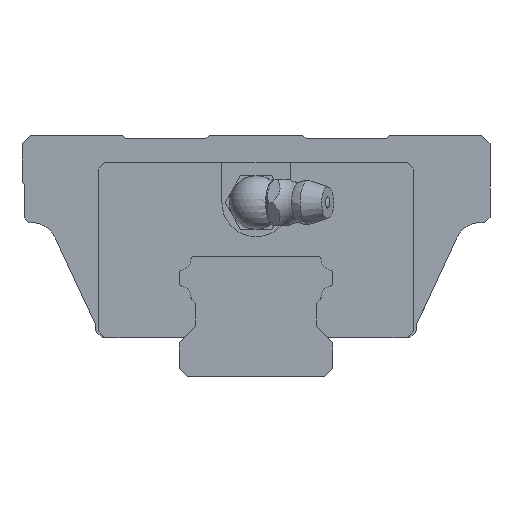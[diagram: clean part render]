
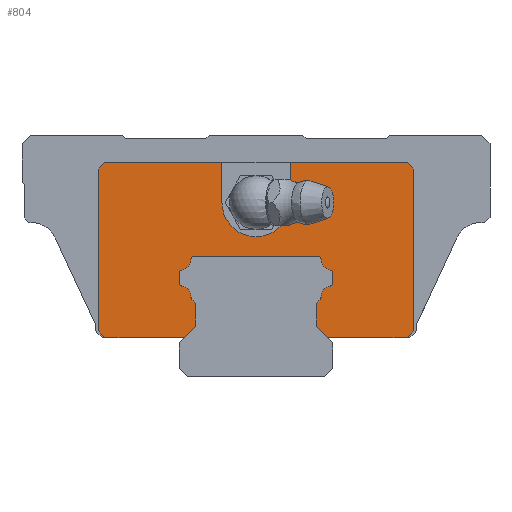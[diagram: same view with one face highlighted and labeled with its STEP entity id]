
A CAD part, front view. The second image highlights one B-rep face of the part: STEP entity #804.
In plain terms, the highlighted planar face has unit normal (0, -1, 0).
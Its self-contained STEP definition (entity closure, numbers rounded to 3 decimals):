
#589=CIRCLE('',#4147,0.5);
#591=CIRCLE('',#4150,1.7);
#593=CIRCLE('',#4153,0.5);
#595=CIRCLE('',#4162,0.5);
#597=CIRCLE('',#4165,1.7);
#599=CIRCLE('',#4168,0.5);
#601=CIRCLE('',#4172,0.5);
#603=CIRCLE('',#4175,1.7);
#605=CIRCLE('',#4178,0.5);
#607=CIRCLE('',#4182,0.5);
#609=CIRCLE('',#4185,1.7);
#611=CIRCLE('',#4188,0.5);
#623=CIRCLE('',#4218,5.1);
#804=ADVANCED_FACE('',(#1108),#957,.T.);
#957=PLANE('',#4219);
#1108=FACE_OUTER_BOUND('',#1343,.T.);
#1343=EDGE_LOOP('',(#2131,#2132,#2133,#2134,#2135,#2136,#2137,#2138,#2139,
#2140,#2141,#2142,#2143,#2144,#2145,#2146,#2147,#2148,#2149,#2150,#2151,
#2152,#2153,#2154,#2155,#2156,#2157,#2158,#2159,#2160,#2161,#2162,#2163,
#2164));
#2131=ORIENTED_EDGE('',*,*,#3104,.F.);
#2132=ORIENTED_EDGE('',*,*,#3101,.F.);
#2133=ORIENTED_EDGE('',*,*,#3098,.F.);
#2134=ORIENTED_EDGE('',*,*,#3095,.F.);
#2135=ORIENTED_EDGE('',*,*,#3092,.F.);
#2136=ORIENTED_EDGE('',*,*,#3089,.F.);
#2137=ORIENTED_EDGE('',*,*,#3086,.F.);
#2138=ORIENTED_EDGE('',*,*,#3145,.F.);
#2139=ORIENTED_EDGE('',*,*,#3142,.F.);
#2140=ORIENTED_EDGE('',*,*,#3139,.F.);
#2141=ORIENTED_EDGE('',*,*,#3136,.F.);
#2142=ORIENTED_EDGE('',*,*,#3133,.F.);
#2143=ORIENTED_EDGE('',*,*,#3130,.F.);
#2144=ORIENTED_EDGE('',*,*,#3127,.F.);
#2145=ORIENTED_EDGE('',*,*,#3124,.F.);
#2146=ORIENTED_EDGE('',*,*,#3121,.F.);
#2147=ORIENTED_EDGE('',*,*,#3118,.F.);
#2148=ORIENTED_EDGE('',*,*,#3115,.F.);
#2149=ORIENTED_EDGE('',*,*,#3112,.F.);
#2150=ORIENTED_EDGE('',*,*,#3109,.F.);
#2151=ORIENTED_EDGE('',*,*,#3106,.F.);
#2152=ORIENTED_EDGE('',*,*,#2965,.T.);
#2153=ORIENTED_EDGE('',*,*,#3156,.T.);
#2154=ORIENTED_EDGE('',*,*,#3153,.T.);
#2155=ORIENTED_EDGE('',*,*,#3158,.T.);
#2156=ORIENTED_EDGE('',*,*,#3164,.T.);
#2157=ORIENTED_EDGE('',*,*,#3174,.F.);
#2158=ORIENTED_EDGE('',*,*,#3175,.F.);
#2159=ORIENTED_EDGE('',*,*,#3176,.F.);
#2160=ORIENTED_EDGE('',*,*,#3160,.T.);
#2161=ORIENTED_EDGE('',*,*,#3165,.T.);
#2162=ORIENTED_EDGE('',*,*,#3149,.T.);
#2163=ORIENTED_EDGE('',*,*,#3155,.T.);
#2164=ORIENTED_EDGE('',*,*,#2887,.T.);
#2509=VERTEX_POINT('',#5593);
#2510=VERTEX_POINT('',#5595);
#2569=VERTEX_POINT('',#5752);
#2570=VERTEX_POINT('',#5754);
#2650=VERTEX_POINT('',#6000);
#2651=VERTEX_POINT('',#6002);
#2653=VERTEX_POINT('',#6008);
#2655=VERTEX_POINT('',#6014);
#2657=VERTEX_POINT('',#6020);
#2659=VERTEX_POINT('',#6026);
#2661=VERTEX_POINT('',#6032);
#2663=VERTEX_POINT('',#6041);
#2665=VERTEX_POINT('',#6047);
#2667=VERTEX_POINT('',#6053);
#2669=VERTEX_POINT('',#6059);
#2671=VERTEX_POINT('',#6065);
#2673=VERTEX_POINT('',#6071);
#2675=VERTEX_POINT('',#6077);
#2677=VERTEX_POINT('',#6083);
#2679=VERTEX_POINT('',#6089);
#2681=VERTEX_POINT('',#6095);
#2683=VERTEX_POINT('',#6101);
#2685=VERTEX_POINT('',#6107);
#2687=VERTEX_POINT('',#6113);
#2690=VERTEX_POINT('',#6124);
#2691=VERTEX_POINT('',#6126);
#2693=VERTEX_POINT('',#6132);
#2694=VERTEX_POINT('',#6134);
#2695=VERTEX_POINT('',#6142);
#2696=VERTEX_POINT('',#6146);
#2697=VERTEX_POINT('',#6148);
#2700=VERTEX_POINT('',#6154);
#2709=VERTEX_POINT('',#6186);
#2710=VERTEX_POINT('',#6188);
#2887=EDGE_CURVE('',#2510,#2509,#3350,.T.);
#2965=EDGE_CURVE('',#2570,#2569,#3404,.T.);
#3086=EDGE_CURVE('',#2650,#2651,#3505,.T.);
#3089=EDGE_CURVE('',#2651,#2653,#589,.T.);
#3092=EDGE_CURVE('',#2653,#2655,#591,.T.);
#3095=EDGE_CURVE('',#2655,#2657,#593,.T.);
#3098=EDGE_CURVE('',#2657,#2659,#3511,.T.);
#3101=EDGE_CURVE('',#2659,#2661,#3514,.T.);
#3104=EDGE_CURVE('',#2661,#2509,#3517,.T.);
#3106=EDGE_CURVE('',#2570,#2663,#3519,.T.);
#3109=EDGE_CURVE('',#2663,#2665,#3522,.T.);
#3112=EDGE_CURVE('',#2665,#2667,#3525,.T.);
#3115=EDGE_CURVE('',#2667,#2669,#595,.T.);
#3118=EDGE_CURVE('',#2669,#2671,#597,.T.);
#3121=EDGE_CURVE('',#2671,#2673,#599,.T.);
#3124=EDGE_CURVE('',#2673,#2675,#3531,.T.);
#3127=EDGE_CURVE('',#2675,#2677,#601,.T.);
#3130=EDGE_CURVE('',#2677,#2679,#603,.T.);
#3133=EDGE_CURVE('',#2679,#2681,#605,.T.);
#3136=EDGE_CURVE('',#2681,#2683,#3537,.T.);
#3139=EDGE_CURVE('',#2683,#2685,#607,.T.);
#3142=EDGE_CURVE('',#2685,#2687,#609,.T.);
#3145=EDGE_CURVE('',#2687,#2650,#611,.T.);
#3149=EDGE_CURVE('',#2691,#2690,#3543,.T.);
#3153=EDGE_CURVE('',#2694,#2693,#3546,.T.);
#3155=EDGE_CURVE('',#2690,#2510,#3548,.T.);
#3156=EDGE_CURVE('',#2569,#2694,#3549,.T.);
#3158=EDGE_CURVE('',#2693,#2695,#3551,.T.);
#3160=EDGE_CURVE('',#2697,#2696,#3553,.T.);
#3164=EDGE_CURVE('',#2695,#2700,#3557,.T.);
#3165=EDGE_CURVE('',#2696,#2691,#3558,.T.);
#3174=EDGE_CURVE('',#2709,#2700,#3559,.T.);
#3175=EDGE_CURVE('',#2710,#2709,#623,.T.);
#3176=EDGE_CURVE('',#2697,#2710,#3560,.T.);
#3350=LINE('',#5594,#3680);
#3404=LINE('',#5753,#3734);
#3505=LINE('',#6001,#3835);
#3511=LINE('',#6025,#3841);
#3514=LINE('',#6031,#3844);
#3517=LINE('',#6037,#3847);
#3519=LINE('',#6040,#3849);
#3522=LINE('',#6046,#3852);
#3525=LINE('',#6052,#3855);
#3531=LINE('',#6076,#3861);
#3537=LINE('',#6100,#3867);
#3543=LINE('',#6125,#3873);
#3546=LINE('',#6133,#3876);
#3548=LINE('',#6137,#3878);
#3549=LINE('',#6139,#3879);
#3551=LINE('',#6143,#3881);
#3553=LINE('',#6147,#3883);
#3557=LINE('',#6155,#3887);
#3558=LINE('',#6157,#3888);
#3559=LINE('',#6185,#3889);
#3560=LINE('',#6189,#3890);
#3680=VECTOR('',#4536,1.);
#3734=VECTOR('',#4680,1.);
#3835=VECTOR('',#4913,1.);
#3841=VECTOR('',#4939,1.);
#3844=VECTOR('',#4944,1.);
#3847=VECTOR('',#4949,1.);
#3849=VECTOR('',#4953,1.);
#3852=VECTOR('',#4958,1.);
#3855=VECTOR('',#4963,1.);
#3861=VECTOR('',#4989,1.);
#3867=VECTOR('',#5015,1.);
#3873=VECTOR('',#5043,1.);
#3876=VECTOR('',#5050,1.);
#3878=VECTOR('',#5054,1.);
#3879=VECTOR('',#5057,1.);
#3881=VECTOR('',#5061,1.);
#3883=VECTOR('',#5065,1.);
#3887=VECTOR('',#5069,1.);
#3888=VECTOR('',#5072,1.);
#3889=VECTOR('',#5111,1.);
#3890=VECTOR('',#5114,1.);
#4147=AXIS2_PLACEMENT_3D('',#6007,#4918,#4919);
#4150=AXIS2_PLACEMENT_3D('',#6013,#4925,#4926);
#4153=AXIS2_PLACEMENT_3D('',#6019,#4932,#4933);
#4162=AXIS2_PLACEMENT_3D('',#6058,#4968,#4969);
#4165=AXIS2_PLACEMENT_3D('',#6064,#4975,#4976);
#4168=AXIS2_PLACEMENT_3D('',#6070,#4982,#4983);
#4172=AXIS2_PLACEMENT_3D('',#6082,#4994,#4995);
#4175=AXIS2_PLACEMENT_3D('',#6088,#5001,#5002);
#4178=AXIS2_PLACEMENT_3D('',#6094,#5008,#5009);
#4182=AXIS2_PLACEMENT_3D('',#6106,#5020,#5021);
#4185=AXIS2_PLACEMENT_3D('',#6112,#5027,#5028);
#4188=AXIS2_PLACEMENT_3D('',#6118,#5034,#5035);
#4218=AXIS2_PLACEMENT_3D('',#6187,#5112,#5113);
#4219=AXIS2_PLACEMENT_3D('',#6190,#5115,#5116);
#4536=DIRECTION('',(1.,0.,0.));
#4680=DIRECTION('',(1.,0.,0.));
#4913=DIRECTION('',(0.,0.,-1.));
#4918=DIRECTION('',(0.,-1.,0.));
#4919=DIRECTION('',(0.,0.,-1.));
#4925=DIRECTION('',(0.,1.,0.));
#4926=DIRECTION('',(0.,0.,-1.));
#4932=DIRECTION('',(0.,-1.,0.));
#4933=DIRECTION('',(0.,0.,-1.));
#4939=DIRECTION('',(0.707,0.,-0.707));
#4944=DIRECTION('',(0.,0.,-1.));
#4949=DIRECTION('',(-0.707,0.,-0.707));
#4953=DIRECTION('',(-0.707,0.,0.707));
#4958=DIRECTION('',(0.,0.,1.));
#4963=DIRECTION('',(0.707,0.,0.707));
#4968=DIRECTION('',(0.,-1.,0.));
#4969=DIRECTION('',(0.,0.,-1.));
#4975=DIRECTION('',(0.,1.,0.));
#4976=DIRECTION('',(0.,0.,-1.));
#4982=DIRECTION('',(0.,-1.,0.));
#4983=DIRECTION('',(0.,0.,-1.));
#4989=DIRECTION('',(0.,0.,1.));
#4994=DIRECTION('',(0.,-1.,0.));
#4995=DIRECTION('',(0.,0.,-1.));
#5001=DIRECTION('',(0.,1.,0.));
#5002=DIRECTION('',(0.,0.,-1.));
#5008=DIRECTION('',(0.,-1.,0.));
#5009=DIRECTION('',(0.,0.,-1.));
#5015=DIRECTION('',(-1.,0.,0.));
#5020=DIRECTION('',(0.,-1.,0.));
#5021=DIRECTION('',(0.,0.,-1.));
#5027=DIRECTION('',(0.,1.,0.));
#5028=DIRECTION('',(0.,0.,-1.));
#5034=DIRECTION('',(0.,-1.,0.));
#5035=DIRECTION('',(0.,0.,-1.));
#5043=DIRECTION('',(0.,0.,-1.));
#5050=DIRECTION('',(0.,0.,1.));
#5054=DIRECTION('',(0.707,0.,-0.707));
#5057=DIRECTION('',(0.707,0.,0.707));
#5061=DIRECTION('',(-0.707,0.,0.707));
#5065=DIRECTION('',(-1.,0.,0.));
#5069=DIRECTION('',(-1.,0.,0.));
#5072=DIRECTION('',(-0.707,0.,-0.707));
#5111=DIRECTION('',(0.,0.,1.));
#5112=DIRECTION('',(0.,-1.,0.));
#5113=DIRECTION('',(1.,0.,0.));
#5114=DIRECTION('',(0.,0.,-1.));
#5115=DIRECTION('',(0.,-1.,0.));
#5116=DIRECTION('',(0.,0.,-1.));
#5593=CARTESIAN_POINT('',(-10.7,-10.5,5.8));
#5594=CARTESIAN_POINT('',(-22.6,-10.5,5.8));
#5595=CARTESIAN_POINT('',(-22.6,-10.5,5.8));
#5752=CARTESIAN_POINT('',(22.6,-10.5,5.8));
#5753=CARTESIAN_POINT('',(-22.6,-10.5,5.8));
#5754=CARTESIAN_POINT('',(10.7,-10.5,5.8));
#6000=CARTESIAN_POINT('',(-11.5,-10.5,15.412));
#6001=CARTESIAN_POINT('',(-11.5,-10.5,26.));
#6002=CARTESIAN_POINT('',(-11.5,-10.5,13.995));
#6007=CARTESIAN_POINT('',(-11.,-10.5,13.995));
#6008=CARTESIAN_POINT('',(-11.097,-10.5,13.504));
#6013=CARTESIAN_POINT('',(-11.426,-10.5,11.836));
#6014=CARTESIAN_POINT('',(-9.726,-10.5,11.834));
#6019=CARTESIAN_POINT('',(-9.226,-10.5,11.833));
#6020=CARTESIAN_POINT('',(-9.58,-10.5,11.48));
#6025=CARTESIAN_POINT('',(-12.05,-10.5,13.95));
#6026=CARTESIAN_POINT('',(-9.,-10.5,10.9));
#6031=CARTESIAN_POINT('',(-9.,-10.5,26.));
#6032=CARTESIAN_POINT('',(-9.,-10.5,7.5));
#6037=CARTESIAN_POINT('',(4.75,-10.5,21.25));
#6040=CARTESIAN_POINT('',(-4.75,-10.5,21.25));
#6041=CARTESIAN_POINT('',(9.,-10.5,7.5));
#6046=CARTESIAN_POINT('',(9.,-10.5,26.));
#6047=CARTESIAN_POINT('',(9.,-10.5,10.9));
#6052=CARTESIAN_POINT('',(12.05,-10.5,13.95));
#6053=CARTESIAN_POINT('',(9.58,-10.5,11.48));
#6058=CARTESIAN_POINT('',(9.226,-10.5,11.833));
#6059=CARTESIAN_POINT('',(9.726,-10.5,11.834));
#6064=CARTESIAN_POINT('',(11.426,-10.5,11.836));
#6065=CARTESIAN_POINT('',(11.097,-10.5,13.504));
#6070=CARTESIAN_POINT('',(11.,-10.5,13.995));
#6071=CARTESIAN_POINT('',(11.5,-10.5,13.995));
#6076=CARTESIAN_POINT('',(11.5,-10.5,26.));
#6077=CARTESIAN_POINT('',(11.5,-10.5,15.412));
#6082=CARTESIAN_POINT('',(11.,-10.5,15.412));
#6083=CARTESIAN_POINT('',(11.097,-10.5,15.902));
#6088=CARTESIAN_POINT('',(11.426,-10.5,17.57));
#6089=CARTESIAN_POINT('',(9.727,-10.5,17.516));
#6094=CARTESIAN_POINT('',(9.227,-10.5,17.5));
#6095=CARTESIAN_POINT('',(9.227,-10.5,18.));
#6100=CARTESIAN_POINT('',(0.,-10.5,18.));
#6101=CARTESIAN_POINT('',(-9.227,-10.5,18.));
#6106=CARTESIAN_POINT('',(-9.227,-10.5,17.5));
#6107=CARTESIAN_POINT('',(-9.727,-10.5,17.516));
#6112=CARTESIAN_POINT('',(-11.426,-10.5,17.57));
#6113=CARTESIAN_POINT('',(-11.097,-10.5,15.902));
#6118=CARTESIAN_POINT('',(-11.,-10.5,15.412));
#6124=CARTESIAN_POINT('',(-23.6,-10.5,6.8));
#6125=CARTESIAN_POINT('',(-23.6,-10.5,31.));
#6126=CARTESIAN_POINT('',(-23.6,-10.5,31.));
#6132=CARTESIAN_POINT('',(23.6,-10.5,31.));
#6133=CARTESIAN_POINT('',(23.6,-10.5,6.8));
#6134=CARTESIAN_POINT('',(23.6,-10.5,6.8));
#6137=CARTESIAN_POINT('',(-23.6,-10.5,6.8));
#6139=CARTESIAN_POINT('',(22.6,-10.5,5.8));
#6142=CARTESIAN_POINT('',(22.6,-10.5,32.));
#6143=CARTESIAN_POINT('',(23.6,-10.5,31.));
#6146=CARTESIAN_POINT('',(-22.6,-10.5,32.));
#6147=CARTESIAN_POINT('',(22.6,-10.5,32.));
#6148=CARTESIAN_POINT('',(-5.1,-10.5,32.));
#6154=CARTESIAN_POINT('',(5.1,-10.5,32.));
#6155=CARTESIAN_POINT('',(22.6,-10.5,32.));
#6157=CARTESIAN_POINT('',(-22.6,-10.5,32.));
#6185=CARTESIAN_POINT('',(5.1,-10.5,26.));
#6186=CARTESIAN_POINT('',(5.1,-10.5,26.));
#6187=CARTESIAN_POINT('',(0.,-10.5,26.));
#6188=CARTESIAN_POINT('',(-5.1,-10.5,26.));
#6189=CARTESIAN_POINT('',(-5.1,-10.5,32.));
#6190=CARTESIAN_POINT('',(0.,-10.5,26.));
